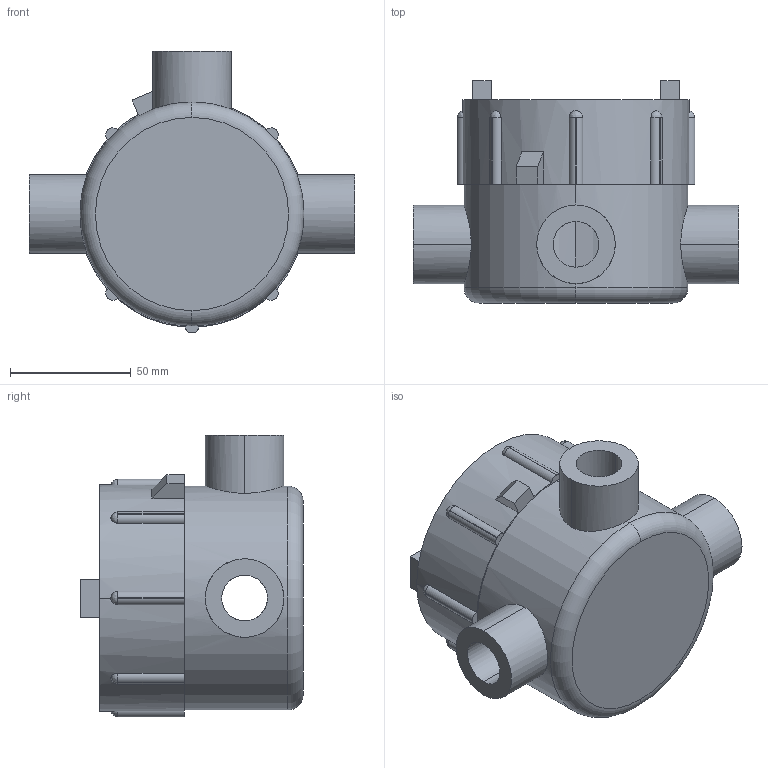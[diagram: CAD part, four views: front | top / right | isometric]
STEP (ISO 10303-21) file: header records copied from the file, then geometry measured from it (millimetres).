
FILE_DESCRIPTION (( 'STEP AP203' ), '1' );
FILE_NAME ('EPJ-3-ALU.STEP', '2017-10-06T21:17:37', ( '' ), ( '' ), 'SwSTEP 2.0', 'SolidWorks 2016', '' );
FILE_SCHEMA (( 'CONFIG_CONTROL_DESIGN' ));
Length unit declared in the file: inch
Products named in the file (1): EPJ-3-ALU
Bounding box: 134.98 x 92.08 x 116.72 mm (x, y, z)
Volume: 300429 mm3; surface area: 94089.2 mm2
Topology: 2 solids, 2 shells, 112 faces, 290 edges, 191 vertices
Faces by surface type: plane 52, cylinder 45, bspline 8, torus 7
Entity records: 5252 total; most frequent: CARTESIAN_POINT 2421, ORIENTED_EDGE 580, DIRECTION 566, EDGE_CURVE 290, AXIS2_PLACEMENT_3D 207, VERTEX_POINT 191, LINE 152, VECTOR 152
